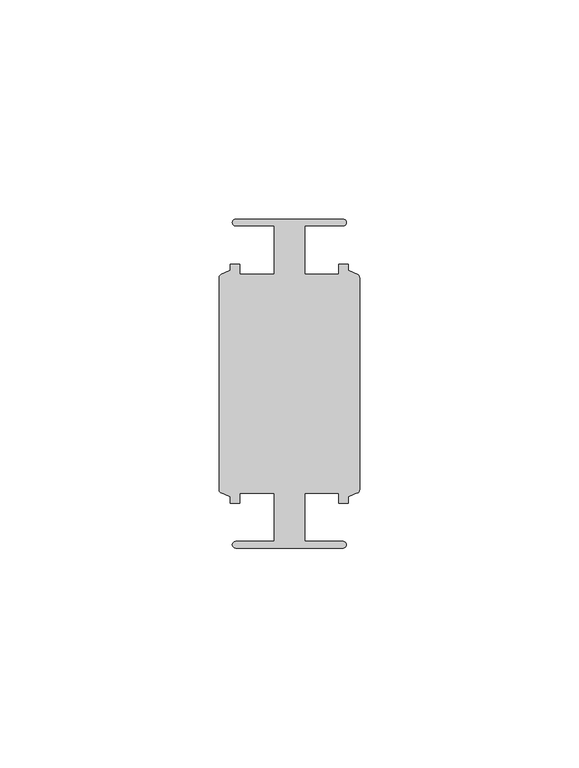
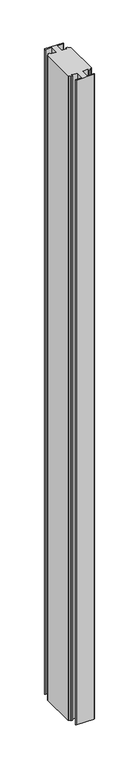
"""IFC4 building model written with IfcOpenShell, lengths in millimetres: member geometry, Прямоугольный импост : 4-AMG-2-Профиль 26Х75 Средний."""

from ifc_helpers import new_model, si_unit, point, frame, frame_2d, origin, place, context, project, spatial, polyline, circle_curve, trimmed, segment, composite_curve, outline, extrude, source, transform, mapped, element, save


def member_1fdc8314(model_context):
    return source(origin(), model_context, "Body", "SweptSolid", [
        extrude(outline(composite_curve([segment(trimmed(circle_curve(frame_2d((12.2876562, 36.75)), 0.75), [point((12.2876562, 37.5))], [point((12.2876562, 36.0))], False, "CARTESIAN"), True, "CONTINUOUS"), segment(polyline([(12.2876562, 36.0), (3.5376562, 36.0), (3.5376562, 25.0), (11.2593767, 25.0), (11.2593767, 27.25), (13.4846403, 27.25), (13.4846403, 25.836597), (15.5572539, 24.9333875)]), True, "CONTINUOUS"), segment(trimmed(circle_curve(frame_2d((15.2376562, 24.2)), 0.8), [point((15.5572539, 24.9333875))], [point((16.0376562, 24.2))], False, "CARTESIAN"), True, "CONTINUOUS"), segment(polyline([(16.0376562, 24.2), (16.0376562, -24.2)]), True, "CONTINUOUS"), segment(trimmed(circle_curve(frame_2d((15.2376562, -24.2)), 0.8), [point((16.0376562, -24.2))], [point((15.5572539, -24.9333875))], False, "CARTESIAN"), True, "CONTINUOUS"), segment(polyline([(15.5572539, -24.9333875), (13.4846403, -25.836597), (13.4846403, -27.25), (11.2593767, -27.25), (11.2593767, -24.9914758), (3.5376562, -24.9914758), (3.5376562, -36.0), (12.2876562, -36.0)]), True, "CONTINUOUS"), segment(trimmed(circle_curve(frame_2d((12.2876562, -36.75)), 0.75), [point((12.2876562, -36.0))], [point((12.2876562, -37.5))], False, "CARTESIAN"), True, "CONTINUOUS"), segment(polyline([(12.2876562, -37.5), (-12.2123438, -37.5)]), True, "CONTINUOUS"), segment(trimmed(circle_curve(frame_2d((-12.2123438, -36.75)), 0.75), [point((-12.2123438, -37.5))], [point((-12.2123438, -36.0))], False, "CARTESIAN"), True, "CONTINUOUS"), segment(polyline([(-12.2123438, -36.0), (-3.4623438, -36.0), (-3.4623438, -24.9913353), (-11.2593767, -24.9913353), (-11.2593767, -27.25), (-13.4093278, -27.25), (-13.4093278, -25.836597), (-15.4819415, -24.9333875)]), True, "CONTINUOUS"), segment(trimmed(circle_curve(frame_2d((-15.1623438, -24.2)), 0.8), [point((-15.4819415, -24.9333875))], [point((-15.9623438, -24.2))], False, "CARTESIAN"), True, "CONTINUOUS"), segment(polyline([(-15.9623438, -24.2), (-15.9623438, 24.2)]), True, "CONTINUOUS"), segment(trimmed(circle_curve(frame_2d((-15.1623438, 24.2)), 0.8), [point((-15.9623438, 24.2))], [point((-15.4819415, 24.9333875))], False, "CARTESIAN"), True, "CONTINUOUS"), segment(polyline([(-15.4819415, 24.9333875), (-13.4093278, 25.836597), (-13.4093278, 27.25), (-11.2593767, 27.25), (-11.2593767, 25.0), (-3.4623438, 25.0), (-3.4623438, 36.0), (-12.2123438, 36.0)]), True, "CONTINUOUS"), segment(trimmed(circle_curve(frame_2d((-12.2123438, 36.75)), 0.75), [point((-12.2123438, 36.0))], [point((-12.2123438, 37.5))], False, "CARTESIAN"), True, "CONTINUOUS"), segment(polyline([(-12.2123438, 37.5), (12.2876562, 37.5)]), True, "CONTINUOUS")], self_intersect=False)), frame((0.0, 0.0, -933.4011211), z_axis=(0.0, 0.0, 1.0), x_axis=(1.0, 0.0, 0.0)), (0.0, 0.0, 1.0), 933.4011211),
    ])


if __name__ == "__main__":
    model = new_model("IFC4")
    model_context = context("Model", 3, world=origin())
    ifc_project = project(units=[si_unit("LENGTHUNIT", "METRE", prefix="MILLI")], contexts=[model_context])
    site = spatial("IfcSite", under=ifc_project)
    building = spatial("IfcBuilding", under=site)
    placement = place(None, origin())
    member_shape = member_1fdc8314(model_context)
    element("IfcMember", 1, ObjectType="Прямоугольный импост : 4-AMG-2-Профиль 26Х75 Средний", at=placement, inside=building, context=model_context, shape_type="MappedRepresentation", body=[
        mapped(member_shape, transform((0.0, 0.0, 0.0), x_axis=(1.0, 0.0, 0.0), y_axis=(0.0, 1.0, 0.0), z_axis=(0.0, 0.0, 1.0))),
    ])
    save(model, "model.ifc")
